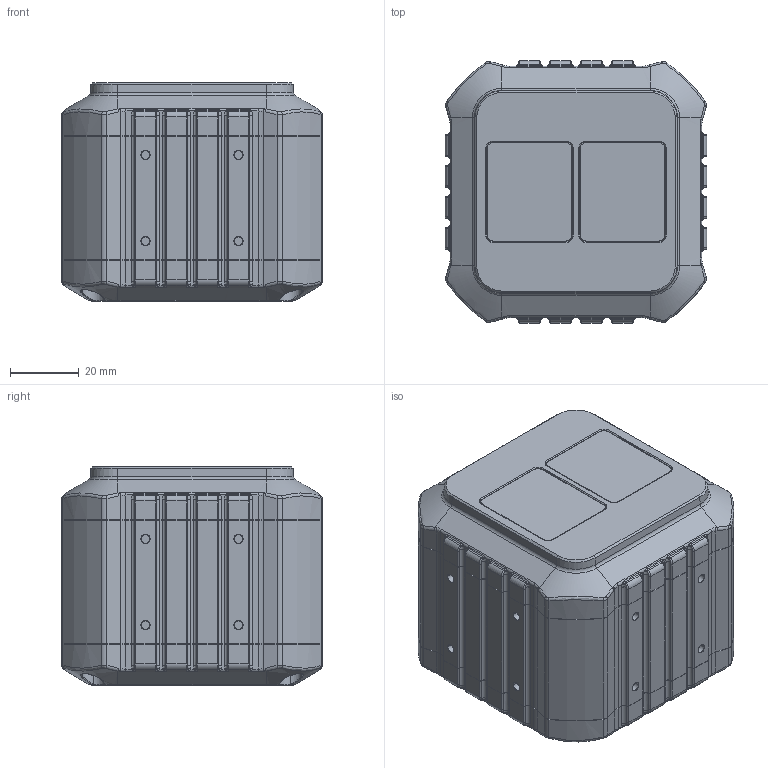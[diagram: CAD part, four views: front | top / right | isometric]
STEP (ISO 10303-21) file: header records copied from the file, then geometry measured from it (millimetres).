
FILE_DESCRIPTION (( 'STEP AP214' ), '1' );
FILE_NAME ('LVD3 3D Model.STEP', '2023-07-17T05:40:00', ( '' ), ( '' ), 'SwSTEP 2.0', 'SolidWorks 2020', '' );
FILE_SCHEMA (( 'AUTOMOTIVE_DESIGN' ));
Length unit declared in the file: millimetre
Products named in the file (1): LVD3 3D Model
Bounding box: 76 x 76 x 63.5 mm (x, y, z)
Volume: 320615.2 mm3; surface area: 33540.3 mm2
Topology: 1 solids, 1 shells, 1747 faces, 4514 edges, 2786 vertices
Faces by surface type: cylinder 680, plane 537, bspline 295, torus 167, cone 64, sphere 4
Entity records: 80569 total; most frequent: CARTESIAN_POINT 21690, ORIENTED_EDGE 8956, DIRECTION 7663, EDGE_CURVE 4478, AXIS2_PLACEMENT_3D 2930, VERTEX_POINT 2784, LINE 1803, VECTOR 1803
